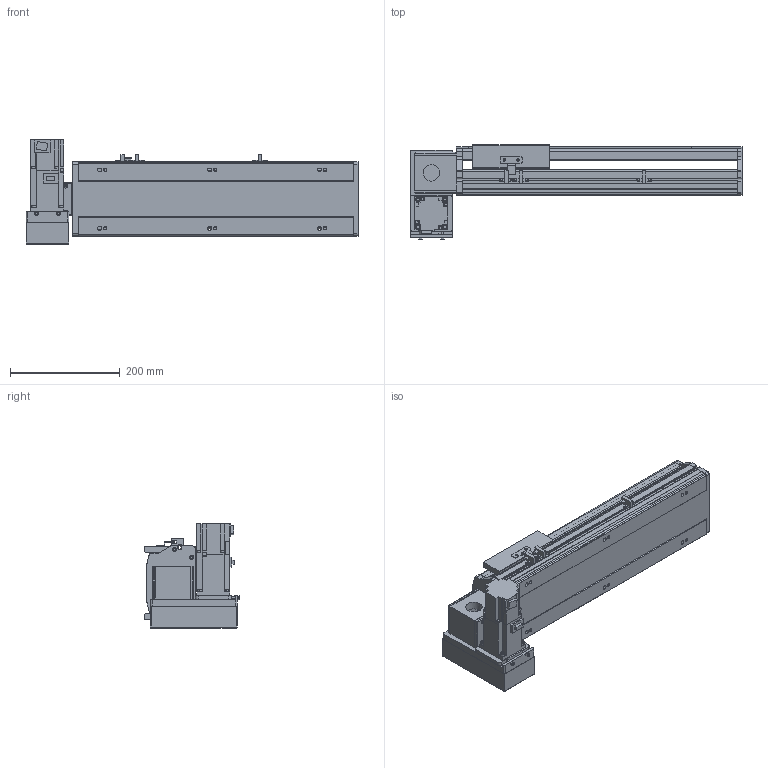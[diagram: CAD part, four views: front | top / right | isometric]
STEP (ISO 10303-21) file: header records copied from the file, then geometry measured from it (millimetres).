
FILE_DESCRIPTION(/* description */ ('STEP AP214'),/* implementation_level */ '2;1');
FILE_NAME(/* name */ 'PBS140S-P40-S250-LD-T40-C1-N(0)',/* time_stamp */ '2022-06-09T02:23:45+02:00',/* author */ ('License CC BY-ND 4.0'),/* organization */ ('CADENAS'),/* preprocessor_version */ 'ST-DEVELOPER v18.102',/* originating_system */ 'PARTsolutions',/* authorisation */ ' ');
FILE_SCHEMA (('AUTOMOTIVE_DESIGN {1 0 10303 214 3 1 1}'));
Length unit declared in the file: millimetre
Products named in the file (7): PBS140S-P40-S250-LD-T40-C1-N(0); PBS140S_sensor; PBS140S_plant; PBS140S_sliser; T40-p1; PBS140ST-LD_motors; PBS140S-S250()_body
Assembly tree (8 placements, depth 2):
  PBS140S-P40-S250-LD-T40-C1-N(0)
    PBS140S_sensor  x3
    PBS140S_plant
    PBS140S_sliser
    T40-p1
    PBS140ST-LD_motors
    PBS140S-S250()_body
Bounding box: 604 x 172.5 x 189.7 mm (x, y, z)
Volume: 3625691.4 mm3; surface area: 659602.8 mm2
Topology: 8 solids, 8 shells, 1019 faces, 2711 edges, 1775 vertices
Faces by surface type: plane 672, cylinder 305, cone 32, sphere 8, torus 2
Full cylindrical faces by diameter (mm): 3.242 x4, 4 x2, 4.134 x4, 4.4 x8, 4.5 x2, 4.8 x4, 4.917 x14, 5.5 x7, 6 x2, 7 x8, 7.5 x8, 8 x12, 8.5 x4, 10.5 x6, 14 x1, 30 x2, 50 x2
Entity records: 29206 total; most frequent: CARTESIAN_POINT 5256, DIRECTION 4998, ORIENTED_EDGE 4762, EDGE_CURVE 2381, AXIS2_PLACEMENT_3D 1709, VERTEX_POINT 1633, LINE 1580, VECTOR 1580
